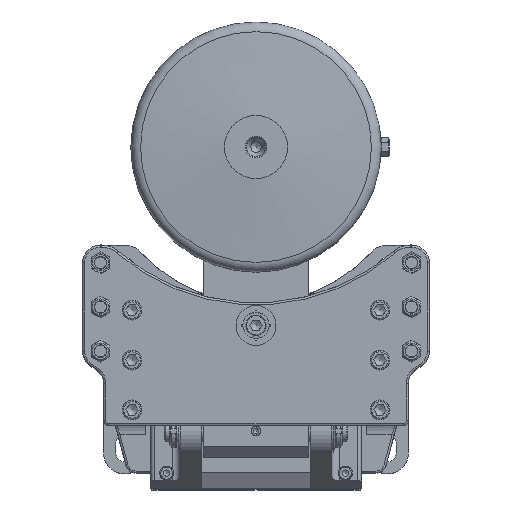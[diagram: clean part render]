
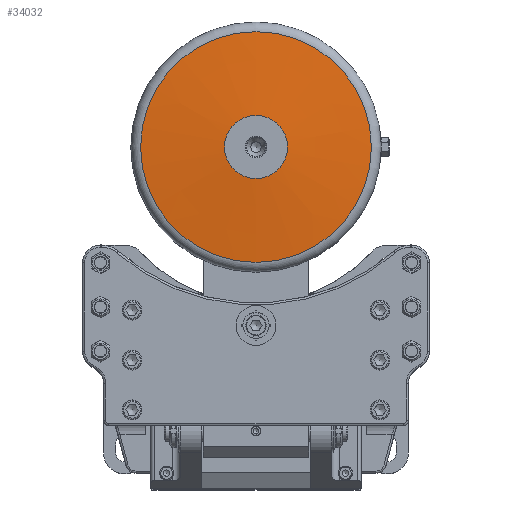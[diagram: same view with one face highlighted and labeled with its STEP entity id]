
A CAD part, top view. The second image highlights one B-rep face of the part: STEP entity #34032.
In plain terms, the highlighted conical face has half-angle 85.426 degrees and reference radius 69.899 mm.
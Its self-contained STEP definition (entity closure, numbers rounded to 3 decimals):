
#818=CONICAL_SURFACE('',#37523,69.899,1.491);
#3352=LINE('',#64973,#5608);
#5608=VECTOR('',#46453,69.899);
#8384=FACE_OUTER_BOUND('',#10483,.T.);
#10483=EDGE_LOOP('',(#29524,#29525,#29526,#29527,#29528,#29529,#29530));
#12369=CIRCLE('',#37524,30.);
#12370=CIRCLE('',#37525,30.);
#12371=CIRCLE('',#37526,109.797);
#12372=CIRCLE('',#37527,109.797);
#12373=CIRCLE('',#37528,109.797);
#15655=VERTEX_POINT('',#64968);
#15656=VERTEX_POINT('',#64969);
#15657=VERTEX_POINT('',#64972);
#15658=VERTEX_POINT('',#64974);
#15659=VERTEX_POINT('',#64976);
#20370=EDGE_CURVE('',#15655,#15656,#12369,.T.);
#20371=EDGE_CURVE('',#15656,#15655,#12370,.T.);
#20372=EDGE_CURVE('',#15656,#15657,#3352,.T.);
#20373=EDGE_CURVE('',#15657,#15658,#12371,.T.);
#20374=EDGE_CURVE('',#15658,#15659,#12372,.T.);
#20375=EDGE_CURVE('',#15659,#15657,#12373,.T.);
#29524=ORIENTED_EDGE('',*,*,#20370,.F.);
#29525=ORIENTED_EDGE('',*,*,#20371,.F.);
#29526=ORIENTED_EDGE('',*,*,#20372,.T.);
#29527=ORIENTED_EDGE('',*,*,#20373,.T.);
#29528=ORIENTED_EDGE('',*,*,#20374,.T.);
#29529=ORIENTED_EDGE('',*,*,#20375,.T.);
#29530=ORIENTED_EDGE('',*,*,#20372,.F.);
#34032=ADVANCED_FACE('',(#8384),#818,.T.);
#37523=AXIS2_PLACEMENT_3D('',#64967,#46447,#46448);
#37524=AXIS2_PLACEMENT_3D('',#64970,#46449,#46450);
#37525=AXIS2_PLACEMENT_3D('',#64971,#46451,#46452);
#37526=AXIS2_PLACEMENT_3D('',#64975,#46454,#46455);
#37527=AXIS2_PLACEMENT_3D('',#64977,#46456,#46457);
#37528=AXIS2_PLACEMENT_3D('',#64978,#46458,#46459);
#46447=DIRECTION('center_axis',(0.,0.,
-1.));
#46448=DIRECTION('ref_axis',(0.,-1.,0.));
#46449=DIRECTION('center_axis',(0.,0.,
1.));
#46450=DIRECTION('ref_axis',(0.,-1.,0.));
#46451=DIRECTION('center_axis',(0.,0.,
1.));
#46452=DIRECTION('ref_axis',(0.,-1.,0.));
#46453=DIRECTION('',(0.,0.997,-0.08));
#46454=DIRECTION('center_axis',(0.,0.,
1.));
#46455=DIRECTION('ref_axis',(0.,-1.,0.));
#46456=DIRECTION('center_axis',(0.,0.,
1.));
#46457=DIRECTION('ref_axis',(0.,-1.,0.));
#46458=DIRECTION('center_axis',(0.,0.,
1.));
#46459=DIRECTION('ref_axis',(0.,-1.,0.));
#64967=CARTESIAN_POINT('Origin',(0.,265.,
362.408));
#64968=CARTESIAN_POINT('',(0.,235.,365.6));
#64969=CARTESIAN_POINT('',(0.,295.,365.6));
#64970=CARTESIAN_POINT('Origin',(0.,265.,
365.6));
#64971=CARTESIAN_POINT('Origin',(0.,265.,
365.6));
#64972=CARTESIAN_POINT('',(0.,374.797,359.216));
#64973=CARTESIAN_POINT('',(0.,334.899,362.408));
#64974=CARTESIAN_POINT('',(0.,155.203,359.216));
#64975=CARTESIAN_POINT('Origin',(0.,265.,
359.216));
#64976=CARTESIAN_POINT('',(109.797,265.,359.216));
#64977=CARTESIAN_POINT('Origin',(0.,265.,
359.216));
#64978=CARTESIAN_POINT('Origin',(0.,265.,
359.216));
